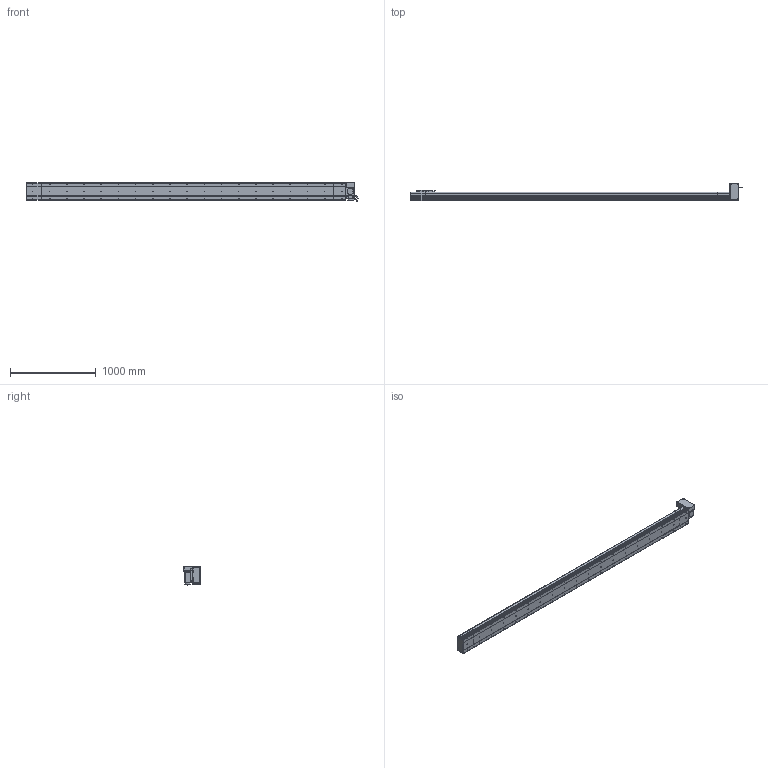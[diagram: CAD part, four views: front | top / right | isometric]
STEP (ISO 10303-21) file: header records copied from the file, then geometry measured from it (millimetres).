
FILE_DESCRIPTION (( 'STEP AP214' ), '1' );
FILE_NAME ('D20 CBH LT S3400.STEP', '2010-06-30T10:55:43', ( 'Conseil Régional Haute-Normandie' ), ( 'Conseil Régional Haute-Normandie' ), 'SwSTEP 2.0', 'SolidWorks 2010', '' );
FILE_SCHEMA (( 'AUTOMOTIVE_DESIGN' ));
Length unit declared in the file: millimetre
Products named in the file (31): Plaque De Serrage D20 LT_Default; vis M5 L47_Default; Rondelle Cache D20 LT_Default; Cache Support Moteur LT_Default; Conecteur2_Default; codeur 90BLDC125-640; corps 90BLDC125A-640; avant 90BLDC125A-640; Moteur motionking 90BLDC125A-640; Support moteur LT_Default; Conecteur_Default; ecrou_Default; vis M5 L30_Default; vis M5 L15_Default; Plaque De Serrage D20_Default; Plaque de Bout Tail D20_Default; Couvercle_Default; Corp Tail D20_Default; Chariot D20_Default; Corp S3400_Default; Corp D20 S3400_Default; Support Chariot D20_Default; Tail D20_Default; Glissiere_Default; Couvercle S3400_Default; Plaque de Bout Head D20 LT_Default; Couvercle LT_Default; Corp Tail D20 LT_Default; Head LT_Default; D20 CBH LT S3400
Assembly tree (66 placements, depth 4):
  D20 CBH LT S3400
    Corp D20 S3400_Default
      Couvercle S3400_Default
      Corp S3400_Default
    Head LT_Default
      Moteur motionking 90BLDC125A-640
        Conecteur2_Default
        avant 90BLDC125A-640
        Conecteur_Default
        corps 90BLDC125A-640
        codeur 90BLDC125-640
      vis M5 L47_Default  x4
      vis M5 L15_Default  x12
      vis M5 L30_Default  x4
      ecrou_Default  x4
      Rondelle Cache D20 LT_Default  x3
      Couvercle LT_Default
      Support moteur LT_Default
      Plaque de Bout Head D20 LT_Default
      Corp Tail D20 LT_Default
      Plaque De Serrage D20 LT_Default
      Cache Support Moteur LT_Default
    Chariot D20_Default
      vis M5 L15_Default  x8
      Support Chariot D20_Default
      Glissiere_Default
      Chariot D20_Default
    Tail D20_Default
      vis M5 L15_Default  x6
      Couvercle_Default
      Corp Tail D20_Default
      Plaque De Serrage D20_Default
      Plaque de Bout Tail D20_Default
Bounding box: 3863.45 x 202.5 x 229.7 mm (x, y, z)
Volume: 25691973.9 mm3; surface area: 4934165.4 mm2
Topology: 103 solids, 103 shells, 3846 faces, 9602 edges, 6244 vertices
Faces by surface type: plane 2119, bspline 806, cylinder 758, torus 91, cone 68, sphere 4
Entity records: 162550 total; most frequent: CARTESIAN_POINT 83536, ORIENTED_EDGE 15672, DIRECTION 12000, EDGE_CURVE 7836, VERTEX_POINT 5188, VECTOR 4988, LINE 4988, AXIS2_PLACEMENT_3D 3506
